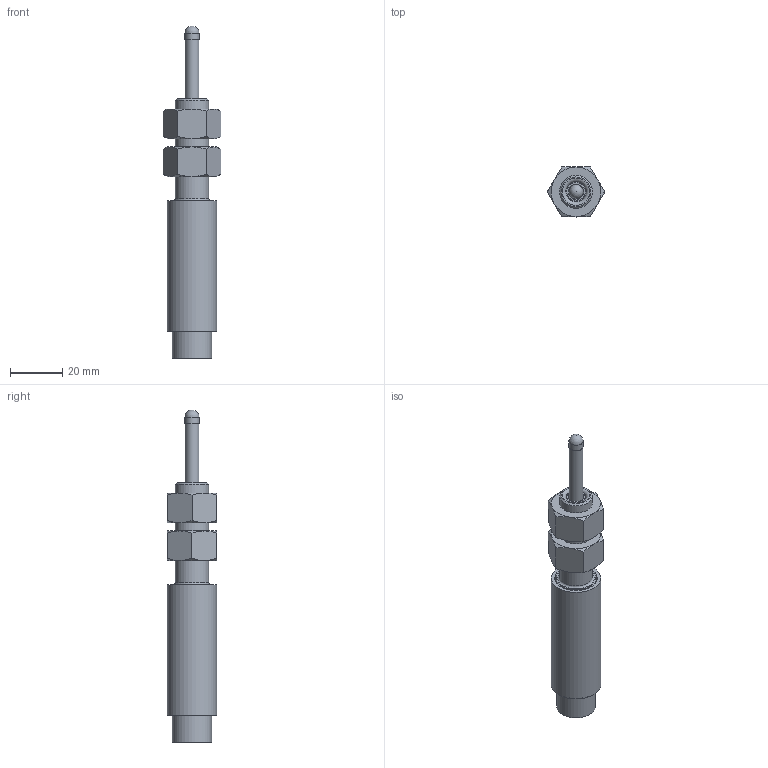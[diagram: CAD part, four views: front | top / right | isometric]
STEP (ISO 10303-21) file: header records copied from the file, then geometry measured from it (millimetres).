
FILE_DESCRIPTION(/* description */ (''),/* implementation_level */ '2;1');
FILE_NAME(/* name */ 'F:\GH SERIES\GH-750-A-XXXX\GH-750-A-050\GH-750-A-050 PACK N GO\GH-750-A-050 ASS''Y.iam.stp',/* time_stamp */ '2021-11-17T12:39:10-05:00',/* author */ ('Justin'),/* organization */ (''),/* preprocessor_version */ 'ST-DEVELOPER v18.1',/* originating_system */ 'Autodesk Inventor 2022',/* authorisation */ '');
FILE_SCHEMA (('AUTOMOTIVE_DESIGN { 1 0 10303 214 3 1 1 }'));
Length unit declared in the file: inch
Products named in the file (4): GH-750-A-050 ASS'Y; AS 2465 - 1/2  UNF; GH-750-A-050 Housing_SW; GH-750-A-050 SHAFT_SW
Assembly tree (4 placements, depth 2):
  GH-750-A-050 ASS'Y
    AS 2465 - 1/2  UNF  x2
    GH-750-A-050 Housing_SW
    GH-750-A-050 SHAFT_SW
Bounding box: 22 x 19.05 x 127.41 mm (x, y, z)
Volume: 15924.3 mm3; surface area: 16692.5 mm2
Topology: 12 solids, 12 shells, 172 faces, 343 edges, 216 vertices
Faces by surface type: plane 69, cylinder 53, cone 43, torus 4, bspline 2, sphere 1
Full cylindrical faces by diameter (mm): 0.762 x12, 2.845 x3, 4.826 x2, 5.334 x4, 5.397 x1, 7.671 x2, 7.874 x1, 11.328 x2, 12.7 x1, 13.208 x1, 14.986 x1, 15.748 x2, 16.51 x1, 17.069 x1, 18.034 x1, 18.415 x3, 19.05 x1
Entity records: 4461 total; most frequent: CARTESIAN_POINT 957, DIRECTION 733, ORIENTED_EDGE 582, AXIS2_PLACEMENT_3D 311, EDGE_CURVE 291, VERTEX_POINT 187, EDGE_LOOP 186, CIRCLE 156
